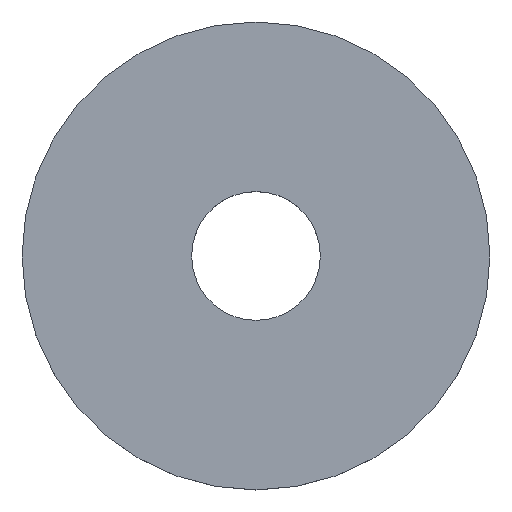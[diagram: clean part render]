
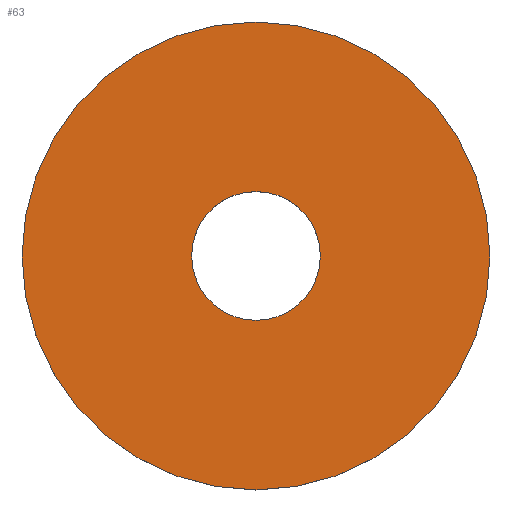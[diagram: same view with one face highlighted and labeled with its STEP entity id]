
A CAD part, top view. The second image highlights one B-rep face of the part: STEP entity #63.
In plain terms, the highlighted planar face has unit normal (0, 0, 1).
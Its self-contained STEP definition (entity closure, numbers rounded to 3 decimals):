
#15=FACE_BOUND('',#26,.T.);
#17=PLANE('',#94);
#21=FACE_OUTER_BOUND('',#25,.T.);
#25=EDGE_LOOP('',(#55));
#26=EDGE_LOOP('',(#56));
#33=CIRCLE('',#89,2.75);
#35=CIRCLE('',#92,10.);
#37=VERTEX_POINT('',#118);
#39=VERTEX_POINT('',#124);
#41=EDGE_CURVE('',#37,#37,#33,.T.);
#44=EDGE_CURVE('',#39,#39,#35,.T.);
#55=ORIENTED_EDGE('',*,*,#44,.T.);
#56=ORIENTED_EDGE('',*,*,#41,.T.);
#63=ADVANCED_FACE('',(#21,#15),#17,.T.);
#89=AXIS2_PLACEMENT_3D('',#119,#100,#101);
#92=AXIS2_PLACEMENT_3D('',#125,#107,#108);
#94=AXIS2_PLACEMENT_3D('',#129,#112,#113);
#100=DIRECTION('center_axis',(0.,0.,-1.));
#101=DIRECTION('ref_axis',(1.,0.,0.));
#107=DIRECTION('center_axis',(0.,0.,1.));
#108=DIRECTION('ref_axis',(1.,0.,0.));
#112=DIRECTION('center_axis',(0.,0.,1.));
#113=DIRECTION('ref_axis',(1.,0.,0.));
#118=CARTESIAN_POINT('',(-2.75,0.,1.2));
#119=CARTESIAN_POINT('Origin',(0.,0.,1.2));
#124=CARTESIAN_POINT('',(-10.,0.,1.2));
#125=CARTESIAN_POINT('Origin',(0.,0.,1.2));
#129=CARTESIAN_POINT('Origin',(0.,0.,1.2));
